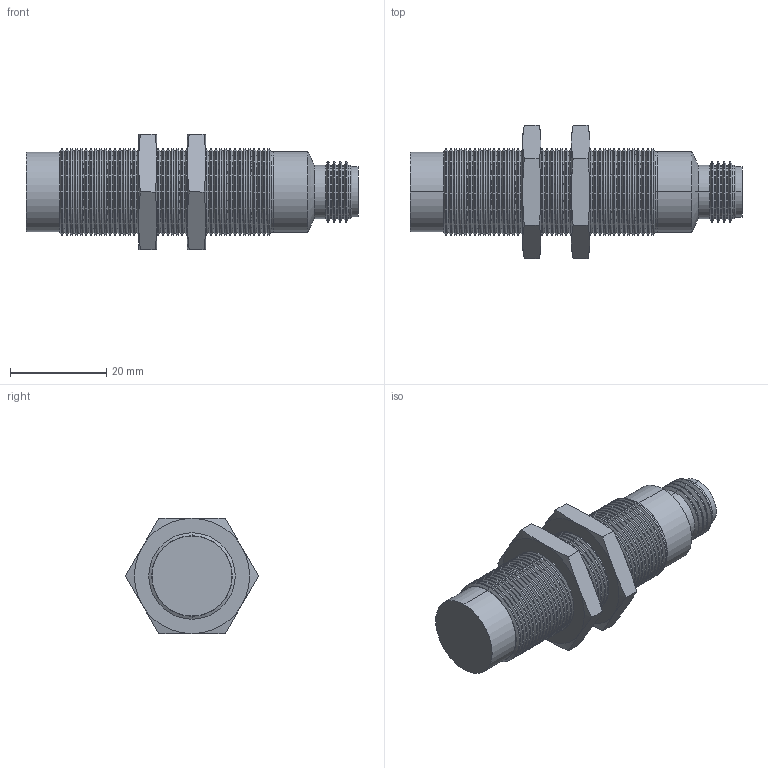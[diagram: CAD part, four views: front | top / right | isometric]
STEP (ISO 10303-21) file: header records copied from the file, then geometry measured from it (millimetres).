
FILE_DESCRIPTION (( 'STEP AP203' ), '1' );
FILE_NAME ('90-XXXX-020.STEP', '2015-10-28T13:16:07', ( 'Sam' ), ( 'Spade' ), 'SwSTEP 2.0', 'SolidWorks 2002296', '' );
FILE_SCHEMA (( 'CONFIG_CONTROL_DESIGN' ));
Length unit declared in the file: inch
Products named in the file (9): 90-XXXX-020; Imported193; Imported192; Imported191; Imported197; Imported196; Imported195; Imported194; Imported198
Assembly tree (8 placements, depth 2):
  90-XXXX-020
    Imported198
    Imported197
    Imported195
    Imported191
    Imported193
    Imported192
    Imported196
    Imported194
Bounding box: 69.09 x 27.69 x 23.98 mm (x, y, z)
Volume: 16628.8 mm3; surface area: 9224.1 mm2
Topology: 8 solids, 8 shells, 520 faces, 1061 edges, 559 vertices
Faces by surface type: cone 259, cylinder 217, plane 38, bspline 6
Entity records: 14345 total; most frequent: DIRECTION 2588, CARTESIAN_POINT 2379, ORIENTED_EDGE 2110, AXIS2_PLACEMENT_3D 1056, EDGE_CURVE 1055, VERTEX_POINT 559, EDGE_LOOP 532, CIRCLE 531
